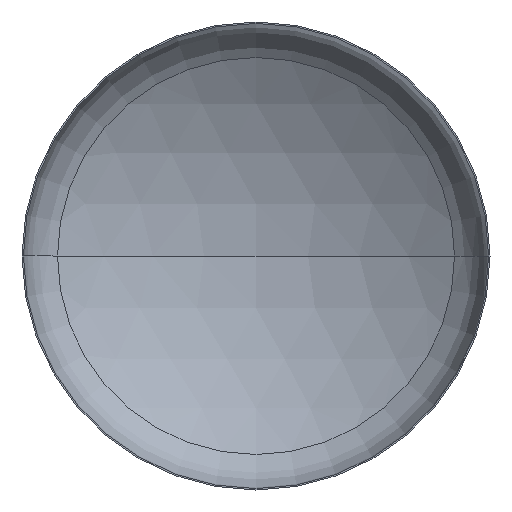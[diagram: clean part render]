
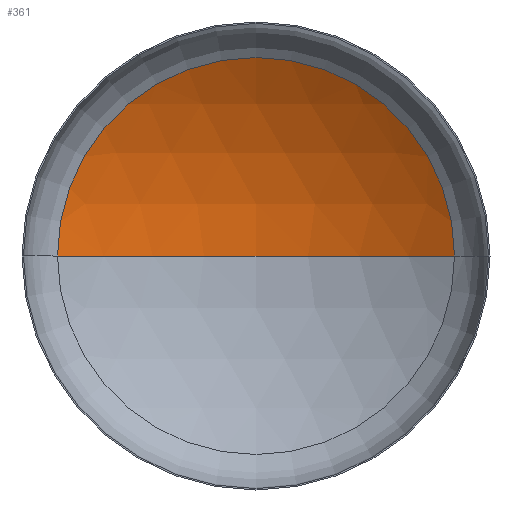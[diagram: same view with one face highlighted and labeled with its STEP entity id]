
A CAD part, front view. The second image highlights one B-rep face of the part: STEP entity #361.
In plain terms, the highlighted spherical face has radius 1600 mm.
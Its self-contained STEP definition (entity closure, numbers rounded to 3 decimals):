
#4 = ORIENTED_EDGE ( 'NONE', *, *, #346, .T. ) ;
#11 = AXIS2_PLACEMENT_3D ( 'NONE', #179, #277, #397 ) ;
#20 = AXIS2_PLACEMENT_3D ( 'NONE', #396, #251, #30 ) ;
#22 = AXIS2_PLACEMENT_3D ( 'NONE', #177, #356, #202 ) ;
#30 = DIRECTION ( 'NONE',  ( -1., 0., 0. ) ) ;
#35 = CIRCLE ( 'NONE', #20, 1600. ) ;
#54 = ORIENTED_EDGE ( 'NONE', *, *, #342, .T. ) ;
#59 = ORIENTED_EDGE ( 'NONE', *, *, #384, .F. ) ;
#83 = VERTEX_POINT ( 'NONE', #191 ) ;
#90 = VERTEX_POINT ( 'NONE', #288 ) ;
#112 = EDGE_LOOP ( 'NONE', ( #59, #4, #54 ) ) ;
#136 = VERTEX_POINT ( 'NONE', #147 ) ;
#147 = CARTESIAN_POINT ( 'NONE',  ( 848.372, 282.834, 0. ) ) ;
#166 = SPHERICAL_SURFACE ( 'NONE', #11, 1600. ) ;
#177 = CARTESIAN_POINT ( 'NONE',  ( 0., 282.834, 0. ) ) ;
#178 = AXIS2_PLACEMENT_3D ( 'NONE', #234, #399, #254 ) ;
#179 = CARTESIAN_POINT ( 'NONE',  ( 0., -1073.729, 0. ) ) ;
#191 = CARTESIAN_POINT ( 'NONE',  ( 0., 526.271, 0. ) ) ;
#202 = DIRECTION ( 'NONE',  ( 1., 0., 0. ) ) ;
#232 = FACE_OUTER_BOUND ( 'NONE', #112, .T. ) ;
#234 = CARTESIAN_POINT ( 'NONE',  ( 0., -1073.729, 0. ) ) ;
#251 = DIRECTION ( 'NONE',  ( 0., 0., -1. ) ) ;
#254 = DIRECTION ( 'NONE',  ( 1., 0., 0. ) ) ;
#277 = DIRECTION ( 'NONE',  ( 0., 0., -1. ) ) ;
#288 = CARTESIAN_POINT ( 'NONE',  ( -848.372, 282.834, 0. ) ) ;
#308 = CIRCLE ( 'NONE', #22, 848.372 ) ;
#342 = EDGE_CURVE ( 'NONE', #136, #90, #308, .T. ) ;
#346 = EDGE_CURVE ( 'NONE', #83, #136, #35, .T. ) ;
#349 = CIRCLE ( 'NONE', #178, 1600. ) ;
#356 = DIRECTION ( 'NONE',  ( 0., -1., 0. ) ) ;
#361 = ADVANCED_FACE ( 'NONE', ( #232 ), #166, .F. ) ;
#384 = EDGE_CURVE ( 'NONE', #83, #90, #349, .T. ) ;
#396 = CARTESIAN_POINT ( 'NONE',  ( 0., -1073.729, 0. ) ) ;
#397 = DIRECTION ( 'NONE',  ( -1., 0., 0. ) ) ;
#399 = DIRECTION ( 'NONE',  ( 0., 0., 1. ) ) ;
